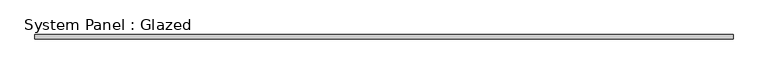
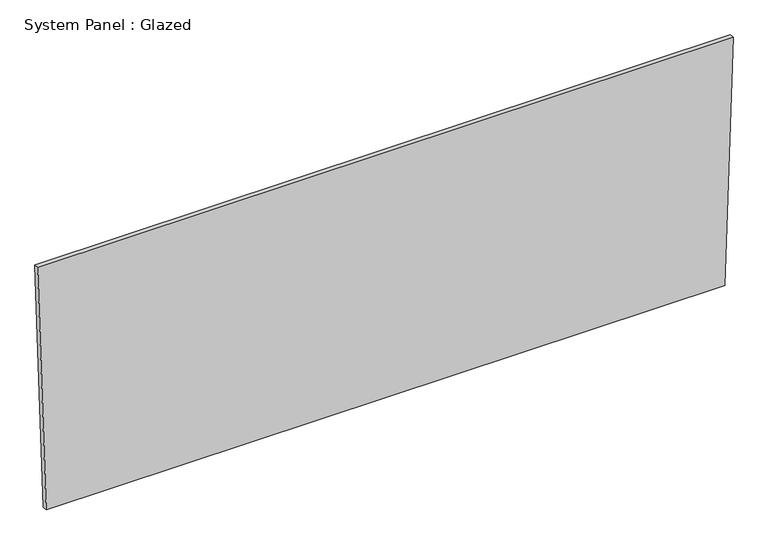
"""IFC4 building model written with IfcOpenShell, lengths in millimetres: plate geometry, System Panel : Glazed."""

import ifcopenshell
import ifcopenshell.guid

model = None  # the IFC model being written
_history = None  # IfcOwnerHistory: only IFC2X3 demands one
_inside = {}  # id of a spatial element -> (the spatial element, [elements in it])
_under = {}  # id of a project, library or spatial element -> (it, [spatial elements below it])
_declared = {}  # id of a project -> (the project, [libraries it declares])
_typed = {}  # id of a type object -> (the type object, [elements of that type])
_made_of = {}  # id of a material, layer set ... -> (it, [elements and type objects made of it])


def new_model(schema):
    """Start an empty IFC model of exactly this schema.

    Asked for "IFC4X3", IfcOpenShell would pick the latest addendum, in which some entities
    have other attributes; the version numbers below select the first issue.
    IFC2X3 requires an IfcOwnerHistory on every rooted entity: one is made here for all.
    """
    global model, _history
    if schema == "IFC4X3":
        model = ifcopenshell.file(schema_version=(4, 3, 0, 0))
    else:
        model = ifcopenshell.file(schema=schema)
    _inside.clear()
    _under.clear()
    _declared.clear()
    _typed.clear()
    _made_of.clear()
    _history = None
    if model.schema == "IFC2X3":
        org = make("IfcOrganization", Name="unknown")
        user = make(
            "IfcPersonAndOrganization",
            ThePerson=make("IfcPerson", FamilyName="unknown"),
            TheOrganization=org,
        )
        app = make(
            "IfcApplication",
            ApplicationDeveloper=org,
            Version="unknown",
            ApplicationFullName="unknown",
            ApplicationIdentifier="unknown",
        )
        _history = make(
            "IfcOwnerHistory",
            OwningUser=user,
            OwningApplication=app,
            ChangeAction="ADDED",
            CreationDate=0,
        )
    return model


def make(cls, **values):
    """One entity of the class cls with the attributes given. An attribute that is None is left unset."""
    return model.create_entity(
        cls, **{name: value for name, value in values.items() if value is not None}
    )


def rooted(cls, **values):
    """An entity with a GlobalId (a new one), such as an element, a storey or a relation."""
    return make(cls, GlobalId=ifcopenshell.guid.new(), OwnerHistory=_history, **values)


def si_unit(unit_type, name, prefix=None):
    """IfcSIUnit, for example si_unit("LENGTHUNIT", "METRE", prefix="MILLI")."""
    return make("IfcSIUnit", UnitType=unit_type, Prefix=prefix, Name=name)


def assignment(units):
    """IfcUnitAssignment: the units of a project."""
    return None if units is None else make("IfcUnitAssignment", Units=units)


def point(xyz):
    """IfcCartesianPoint."""
    return None if xyz is None else make("IfcCartesianPoint", Coordinates=xyz)


def direction(xyz):
    """IfcDirection."""
    return None if xyz is None else make("IfcDirection", DirectionRatios=xyz)


def frame(location, z_axis=None, x_axis=None):
    """IfcAxis2Placement3D, a coordinate frame: its origin and axes. An axis left out is left unset."""
    return make(
        "IfcAxis2Placement3D",
        Location=point(location),
        Axis=direction(z_axis),
        RefDirection=direction(x_axis),
    )


def origin():
    """The frame at (0, 0, 0) with its axes left unset."""
    return frame((0.0, 0.0, 0.0))


def place(relative_to, where):
    """IfcLocalPlacement: puts the frame where relative to a parent placement (None: the world)."""
    return make(
        "IfcLocalPlacement", PlacementRelTo=relative_to, RelativePlacement=where
    )


def context(
    kind, dimensions, precision=None, world=None, true_north=None, identifier=None
):
    """IfcGeometricRepresentationContext, for example the 3D "Model" context."""
    return make(
        "IfcGeometricRepresentationContext",
        ContextIdentifier=identifier,
        ContextType=kind,
        CoordinateSpaceDimension=dimensions,
        Precision=precision,
        WorldCoordinateSystem=world,
        TrueNorth=true_north,
    )


def project(units=None, contexts=None):
    """IfcProject with its units and contexts."""
    return rooted(
        "IfcProject",
        Name="project",
        RepresentationContexts=contexts,
        UnitsInContext=assignment(units),
    )


def spatial(cls, under=None, at=None, **own):
    """A site, building, storey or space (cls), placed at a placement, below another one or the project."""
    s = rooted(cls, ObjectPlacement=at, **own)
    if under is not None:
        _under.setdefault(under.id(), (under, []))[1].append(s)
    return s


def polyline(points):
    """IfcPolyline through the points."""
    return make("IfcPolyline", Points=[point(p) for p in points])


def outline(outer, holes=None, kind="AREA"):
    """IfcArbitraryClosedProfileDef: a profile drawn as a closed curve; with holes, ...WithVoids."""
    if holes is None:
        return make("IfcArbitraryClosedProfileDef", ProfileType=kind, OuterCurve=outer)
    return make(
        "IfcArbitraryProfileDefWithVoids",
        ProfileType=kind,
        OuterCurve=outer,
        InnerCurves=holes,
    )


def extrude(swept, where, along, depth):
    """IfcExtrudedAreaSolid: the profile swept, set in the frame where, extruded along a direction by depth."""
    return make(
        "IfcExtrudedAreaSolid",
        SweptArea=swept,
        Position=where,
        ExtrudedDirection=direction(along),
        Depth=depth,
    )


def shape(context_of_items, identifier, shape_type, items):
    """IfcShapeRepresentation: the items that make up one representation, for example the "Body"."""
    return make(
        "IfcShapeRepresentation",
        ContextOfItems=context_of_items,
        RepresentationIdentifier=identifier,
        RepresentationType=shape_type,
        Items=items,
    )


def source(mapping_origin, context_of_items, identifier, shape_type, items):
    """IfcRepresentationMap: a shape defined once, which mapped items show again and again."""
    return make(
        "IfcRepresentationMap",
        MappingOrigin=mapping_origin,
        MappedRepresentation=shape(context_of_items, identifier, shape_type, items),
    )


def transform(
    local_origin,
    x_axis=None,
    y_axis=None,
    z_axis=None,
    scale=None,
    scale2=None,
    scale3=None,
    uniform=True,
):
    """IfcCartesianTransformationOperator3D, or its non-uniform kind. x_axis, y_axis, z_axis: its Axis1, 2, 3."""
    if uniform:
        return make(
            "IfcCartesianTransformationOperator3D",
            Axis1=direction(x_axis),
            Axis2=direction(y_axis),
            LocalOrigin=point(local_origin),
            Scale=scale,
            Axis3=direction(z_axis),
        )
    return make(
        "IfcCartesianTransformationOperator3DnonUniform",
        Axis1=direction(x_axis),
        Axis2=direction(y_axis),
        LocalOrigin=point(local_origin),
        Scale=scale,
        Axis3=direction(z_axis),
        Scale2=scale2,
        Scale3=scale3,
    )


def mapped(mapping_source, mapping_target):
    """IfcMappedItem: shows the shape of a source again, moved by a transform."""
    return make(
        "IfcMappedItem", MappingSource=mapping_source, MappingTarget=mapping_target
    )


def made_of(thing, what):
    """Note that an element or type object is made of a material, layer set ...; save() writes the relation."""
    if what is not None:
        _made_of.setdefault(what.id(), (what, []))[1].append(thing)
    return thing


def element(
    cls,
    number,
    at=None,
    inside=None,
    cuts=None,
    type_object=None,
    material=None,
    context=None,
    identifier="Body",
    shape_type=None,
    held_by="IfcProductDefinitionShape",
    body=None,
    shapes=None,
    **own,
):
    """One element of the class cls, such as IfcWall. Its Tag is "e" and its number.

    at: its placement. inside: the storey or other place that contains it. cuts: it is an
    opening in that element (IfcRelVoidsElement). A single representation is given by context,
    identifier, shape_type and body (its items); several are given by shapes. held_by: the class
    of the entity that holds the representations. save() writes the other relations.
    """
    e = rooted(cls, Tag="e%d" % number, ObjectPlacement=at, **own)
    if body is not None:
        shapes = [shape(context, identifier, shape_type, body)]
    if shapes is not None:
        e.Representation = make(held_by, Representations=shapes)
    if inside is not None:
        _inside.setdefault(inside.id(), (inside, []))[1].append(e)
    if cuts is not None:
        rooted(
            "IfcRelVoidsElement", RelatingBuildingElement=cuts, RelatedOpeningElement=e
        )
    if type_object is not None:
        _typed.setdefault(type_object.id(), (type_object, []))[1].append(e)
    return made_of(e, material)


def aggregate(whole, parts):
    """IfcRelAggregates: a whole, such as a stair, and the parts it consists of."""
    return rooted("IfcRelAggregates", RelatingObject=whole, RelatedObjects=parts)


def save(model, path):
    """Write the relations noted so far, then the file.

    IfcRelAggregates (storeys below a building ...), IfcRelContainedInSpatialStructure (elements
    in a storey), IfcRelDefinesByType, IfcRelAssociatesMaterial and IfcRelDeclares: one each for
    every whole, place, type object, material and project.
    """
    for whole, parts in _under.values():
        aggregate(whole, parts)
    for where, things in _inside.values():
        rooted(
            "IfcRelContainedInSpatialStructure",
            RelatedElements=things,
            RelatingStructure=where,
        )
    for kind, things in _typed.values():
        rooted("IfcRelDefinesByType", RelatedObjects=things, RelatingType=kind)
    for what, things in _made_of.values():
        rooted("IfcRelAssociatesMaterial", RelatedObjects=things, RelatingMaterial=what)
    for by, libraries in _declared.values():
        rooted("IfcRelDeclares", RelatingContext=by, RelatedDefinitions=libraries)
    model.write(path)


def system_panel_glazed_7f2b973a(model_context):
    return source(origin(), model_context, "Body", "SweptSolid", [
        extrude(outline(polyline([(0.0, -1909.6694991), (0.0, 1909.6694991), (1459.6689838, 1957.8930647), (1459.6689838, -1957.8930647), (0.0, -1909.6694991)])), frame((0.0, -44.45, 0.0), z_axis=(0.0, 1.0, 0.0), x_axis=(0.0, 0.0, 1.0)), (0.0, 0.0, 1.0), 25.4),
    ])


if __name__ == "__main__":
    model = new_model("IFC4")
    model_context = context("Model", 3, world=origin())
    ifc_project = project(units=[si_unit("LENGTHUNIT", "METRE", prefix="MILLI")], contexts=[model_context])
    site = spatial("IfcSite", under=ifc_project)
    building = spatial("IfcBuilding", under=site)
    placement = place(None, origin())
    system_panel_glazed_shape = system_panel_glazed_7f2b973a(model_context)
    element("IfcPlate", 1, ObjectType="System Panel : Glazed", at=placement, inside=building, context=model_context, shape_type="MappedRepresentation", body=[
        mapped(system_panel_glazed_shape, transform((0.0, 0.0, 0.0), x_axis=(1.0, 0.0, 0.0), y_axis=(0.0, 1.0, 0.0), z_axis=(0.0, 0.0, 1.0))),
    ])
    save(model, "model.ifc")
